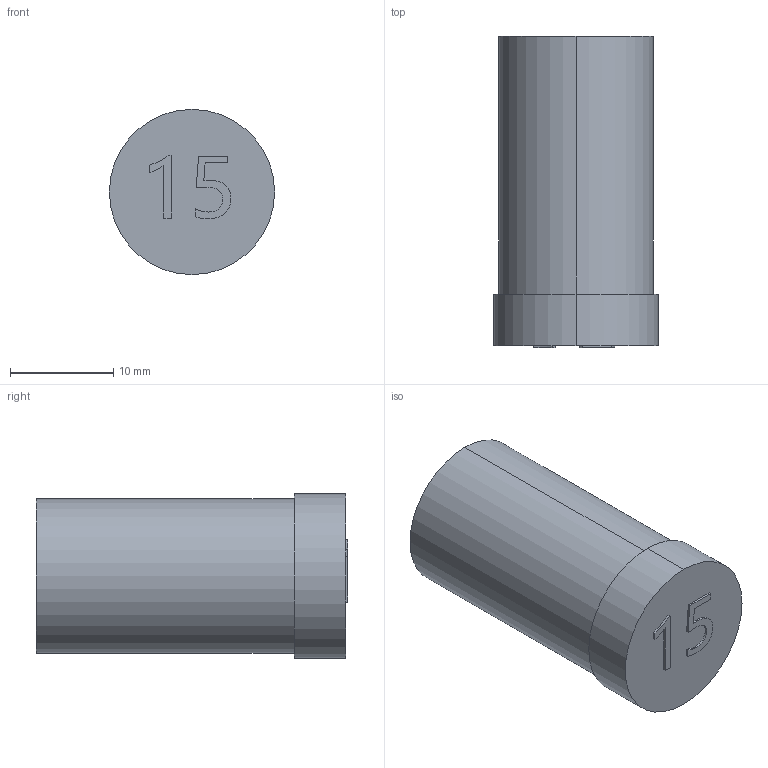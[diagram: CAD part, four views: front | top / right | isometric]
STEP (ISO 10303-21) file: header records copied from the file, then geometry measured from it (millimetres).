
FILE_DESCRIPTION (( 'STEP AP203' ), '1' );
FILE_NAME ('042885 ST15.STEP', '2023-11-23T00:57:57', ( '' ), ( '' ), 'SwSTEP 2.0', 'SolidWorks 2016', '' );
FILE_SCHEMA (( 'CONFIG_CONTROL_DESIGN' ));
Length unit declared in the file: millimetre
Products named in the file (1): 042885 ST15
Bounding box: 16 x 30.2 x 16 mm (x, y, z)
Volume: 5426 mm3; surface area: 1840.1 mm2
Topology: 1 solids, 1 shells, 30 faces, 75 edges, 50 vertices
Faces by surface type: plane 17, bspline 9, cylinder 4
Entity records: 1383 total; most frequent: CARTESIAN_POINT 638, ORIENTED_EDGE 150, DIRECTION 109, EDGE_CURVE 75, VERTEX_POINT 50, LINE 49, VECTOR 49, EDGE_LOOP 33
